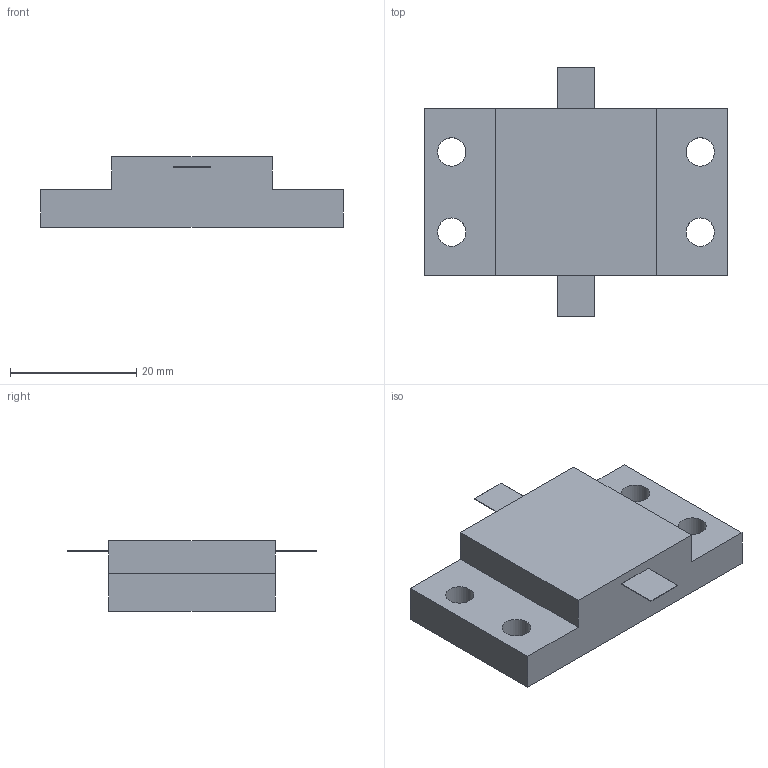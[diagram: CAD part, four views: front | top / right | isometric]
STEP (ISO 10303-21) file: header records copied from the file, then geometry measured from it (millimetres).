
FILE_DESCRIPTION(('STEP AP203'), '1');
FILE_NAME('P1-170-1000-48', '', ('UNSPECIFIED'), ('UNSPECIFIED'), 'ASCON STEP Converter 1.6', 'ASCON Math Kernel', '');
FILE_SCHEMA(('CONFIG_CONTROL_DESIGN'));
Length unit declared in the file: millimetre
Bounding box: 48 x 39.6 x 11.2 mm (x, y, z)
Volume: 10716.3 mm3; surface area: 4339 mm2
Topology: 1 solids, 1 shells, 24 faces, 60 edges, 40 vertices
Faces by surface type: plane 20, cylinder 4
Full cylindrical faces by diameter (mm): 4.5 x4
Entity records: 944 total; most frequent: CARTESIAN_POINT 121, DIRECTION 114, ORIENTED_EDGE 112, EDGE_CURVE 56, LINE 48, VECTOR 48, VERTEX_POINT 40, EDGE_LOOP 38
